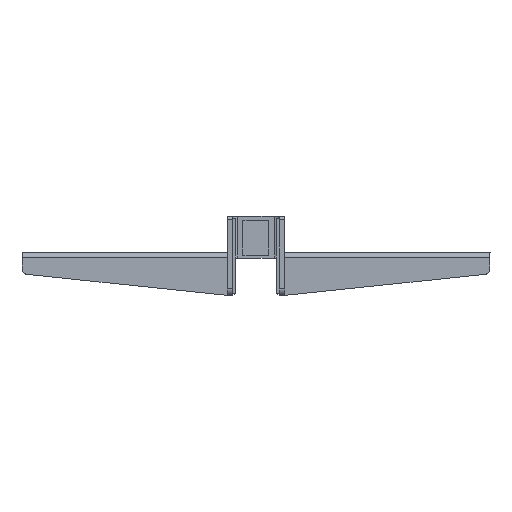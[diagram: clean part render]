
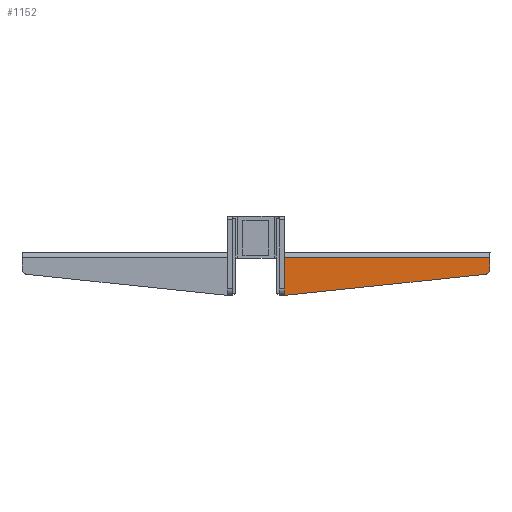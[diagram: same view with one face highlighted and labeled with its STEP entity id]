
A CAD part, front view. The second image highlights one B-rep face of the part: STEP entity #1152.
In plain terms, the highlighted planar face has unit normal (0, -1, 0).
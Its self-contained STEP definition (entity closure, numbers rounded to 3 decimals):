
#145 = LINE ( 'NONE', #5235, #5394 ) ;
#241 = DIRECTION ( 'NONE',  ( 0., 0., -1. ) ) ;
#522 = CARTESIAN_POINT ( 'NONE',  ( 40.7, 5116.2, 1574.483 ) ) ;
#556 = EDGE_CURVE ( 'NONE', #1128, #5164, #3561, .T. ) ;
#1128 = VERTEX_POINT ( 'NONE', #2799 ) ;
#1138 = PLANE ( 'NONE',  #1877 ) ;
#1152 = ADVANCED_FACE ( 'NONE', ( #2248 ), #1138, .T. ) ;
#1566 = VERTEX_POINT ( 'NONE', #522 ) ;
#1587 = LINE ( 'NONE', #3907, #3470 ) ;
#1660 = CIRCLE ( 'NONE', #6005, 3. ) ;
#1877 = AXIS2_PLACEMENT_3D ( 'NONE', #5246, #4575, #3514 ) ;
#1960 = VERTEX_POINT ( 'NONE', #5105 ) ;
#2033 = CARTESIAN_POINT ( 'NONE',  ( 40.7, 5116.2, 1577.483 ) ) ;
#2248 = FACE_OUTER_BOUND ( 'NONE', #5358, .T. ) ;
#2752 = DIRECTION ( 'NONE',  ( 0., -1., 0. ) ) ;
#2799 = CARTESIAN_POINT ( 'NONE',  ( 159.3, 5116.2, 1574.483 ) ) ;
#3470 = VECTOR ( 'NONE', #7444, 1000. ) ;
#3508 = CARTESIAN_POINT ( 'NONE',  ( 159.3, 5116.2, 1567.907 ) ) ;
#3514 = DIRECTION ( 'NONE',  ( 1., 0., 0. ) ) ;
#3561 = LINE ( 'NONE', #5897, #3742 ) ;
#3742 = VECTOR ( 'NONE', #6317, 1000. ) ;
#3907 = CARTESIAN_POINT ( 'NONE',  ( 556.15, 5116.2, 1606.916 ) ) ;
#3982 = ORIENTED_EDGE ( 'NONE', *, *, #4135, .T. ) ;
#4086 = VECTOR ( 'NONE', #241, 1000. ) ;
#4135 = EDGE_CURVE ( 'NONE', #1128, #1566, #145, .T. ) ;
#4414 = EDGE_CURVE ( 'NONE', #1566, #1960, #4848, .T. ) ;
#4575 = DIRECTION ( 'NONE',  ( 0., -1., 0. ) ) ;
#4648 = EDGE_CURVE ( 'NONE', #1960, #6218, #1587, .T. ) ;
#4755 = ORIENTED_EDGE ( 'NONE', *, *, #4414, .T. ) ;
#4848 = LINE ( 'NONE', #2033, #4086 ) ;
#5105 = CARTESIAN_POINT ( 'NONE',  ( 40.7, 5116.2, 1552.74 ) ) ;
#5130 = ORIENTED_EDGE ( 'NONE', *, *, #556, .F. ) ;
#5164 = VERTEX_POINT ( 'NONE', #3508 ) ;
#5235 = CARTESIAN_POINT ( 'NONE',  ( 159.3, 5116.2, 1574.483 ) ) ;
#5246 = CARTESIAN_POINT ( 'NONE',  ( 156.3, 5116.2, 1577.483 ) ) ;
#5358 = EDGE_LOOP ( 'NONE', ( #3982, #4755, #6013, #5857, #5130 ) ) ;
#5394 = VECTOR ( 'NONE', #7039, 1000. ) ;
#5470 = CARTESIAN_POINT ( 'NONE',  ( 156.3, 5116.2, 1567.907 ) ) ;
#5643 = DIRECTION ( 'NONE',  ( 0., 0., 1. ) ) ;
#5840 = CARTESIAN_POINT ( 'NONE',  ( 156.614, 5116.2, 1564.923 ) ) ;
#5857 = ORIENTED_EDGE ( 'NONE', *, *, #6417, .T. ) ;
#5897 = CARTESIAN_POINT ( 'NONE',  ( 159.3, 5116.2, 1577.483 ) ) ;
#6005 = AXIS2_PLACEMENT_3D ( 'NONE', #5470, #2752, #5643 ) ;
#6013 = ORIENTED_EDGE ( 'NONE', *, *, #4648, .T. ) ;
#6218 = VERTEX_POINT ( 'NONE', #5840 ) ;
#6317 = DIRECTION ( 'NONE',  ( 0., 0., -1. ) ) ;
#6417 = EDGE_CURVE ( 'NONE', #6218, #5164, #1660, .T. ) ;
#7039 = DIRECTION ( 'NONE',  ( -1., 0., 0. ) ) ;
#7444 = DIRECTION ( 'NONE',  ( 0.995, 0., 0.105 ) ) ;
